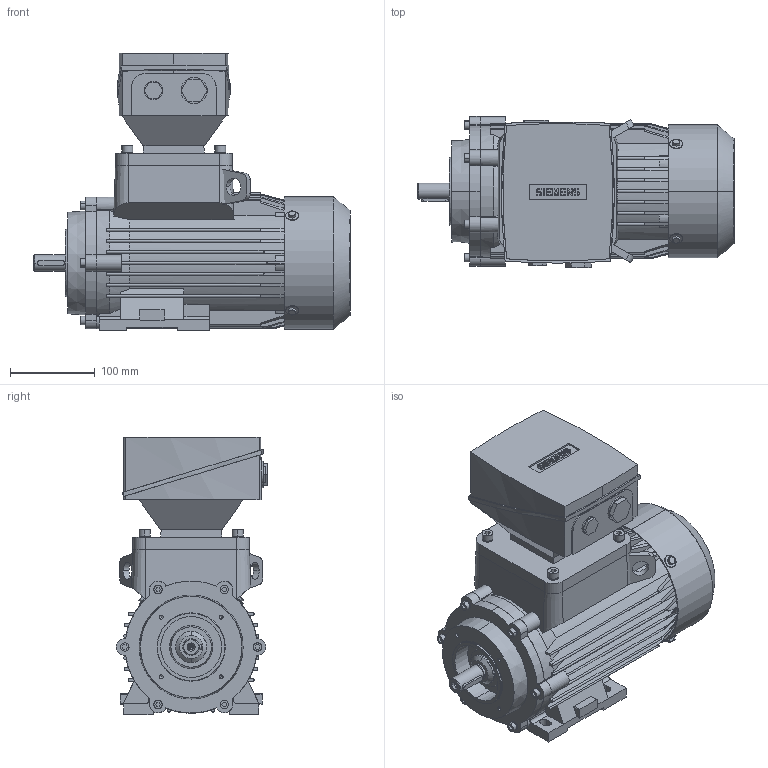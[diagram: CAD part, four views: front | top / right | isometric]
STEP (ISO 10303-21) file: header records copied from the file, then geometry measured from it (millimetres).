
FILE_DESCRIPTION(('STEP AP214'),'1');
FILE_NAME('cctmp_F9EAD575-F3B1-4090-AB61-E4D7817E6D9C_2023_06_14_17_38_55_0132..stp','2023-06-14T15:38:56',('SIEMENS A&D'),('CADClick - www.CADClick.com'),'Spatial InterOp 3D',' ','unknown authorization');
FILE_SCHEMA(('AUTOMOTIVE_DESIGN'));
Length unit declared in the file: millimetre
Products named in the file (29): cc_unnamed; 2023_06_14_17_38_55_0100; 2023_06_14_17_38_55_0069; 2023_06_14_17_38_55_0038; 2023_06_14_17_38_55_0007; 2023_06_14_17_38_54_0975; 2023_06_14_17_38_54_0944; 2023_06_14_17_38_54_0913; 2023_06_14_17_38_54_0882; 2023_06_14_17_38_54_0850; 2023_06_14_17_38_54_0819; 2023_06_14_17_38_54_0788; 2023_06_14_17_38_54_0757; 2023_06_14_17_38_54_0725; 2023_06_14_17_38_54_0694; 2023_06_14_17_38_54_0663; 2023_06_14_17_38_54_0632; 2023_06_14_17_38_54_0600; 2023_06_14_17_38_54_0569; 2023_06_14_17_38_54_0538; 2023_06_14_17_38_54_0507; 2023_06_14_17_38_54_0475; 2023_06_14_17_38_54_0444; 2023_06_14_17_38_54_0413; 2023_06_14_17_38_54_0379; 2023_06_14_17_38_54_0363; 2023_06_14_17_38_54_0331; 2023_06_14_17_38_54_0300; 2023_06_14_17_38_54_0269
Assembly tree (28 placements, depth 2):
  cc_unnamed
    2023_06_14_17_38_55_0100
    2023_06_14_17_38_55_0069
    2023_06_14_17_38_55_0038
    2023_06_14_17_38_55_0007
    2023_06_14_17_38_54_0975
    2023_06_14_17_38_54_0944
    2023_06_14_17_38_54_0913
    2023_06_14_17_38_54_0882
    2023_06_14_17_38_54_0850
    2023_06_14_17_38_54_0819
    2023_06_14_17_38_54_0788
    2023_06_14_17_38_54_0757
    2023_06_14_17_38_54_0725
    2023_06_14_17_38_54_0694
    2023_06_14_17_38_54_0663
    2023_06_14_17_38_54_0632
    2023_06_14_17_38_54_0600
    2023_06_14_17_38_54_0569
    2023_06_14_17_38_54_0538
    2023_06_14_17_38_54_0507
    2023_06_14_17_38_54_0475
    2023_06_14_17_38_54_0444
    2023_06_14_17_38_54_0413
    2023_06_14_17_38_54_0379
    2023_06_14_17_38_54_0363
    2023_06_14_17_38_54_0331
    2023_06_14_17_38_54_0300
    2023_06_14_17_38_54_0269
Bounding box: 374 x 179 x 328 mm (x, y, z)
Volume: 8094663.8 mm3; surface area: 653620.5 mm2
Topology: 28 solids, 28 shells, 1262 faces, 3421 edges, 2244 vertices
Faces by surface type: plane 872, cylinder 221, cone 127, torus 42
Entity records: 52267 total; most frequent: CARTESIAN_POINT 9218, ORIENTED_EDGE 6806, DIRECTION 6432, EDGE_CURVE 3403, LINE 2438, VECTOR 2438, VERTEX_POINT 2244, AXIS2_PLACEMENT_3D 1997
